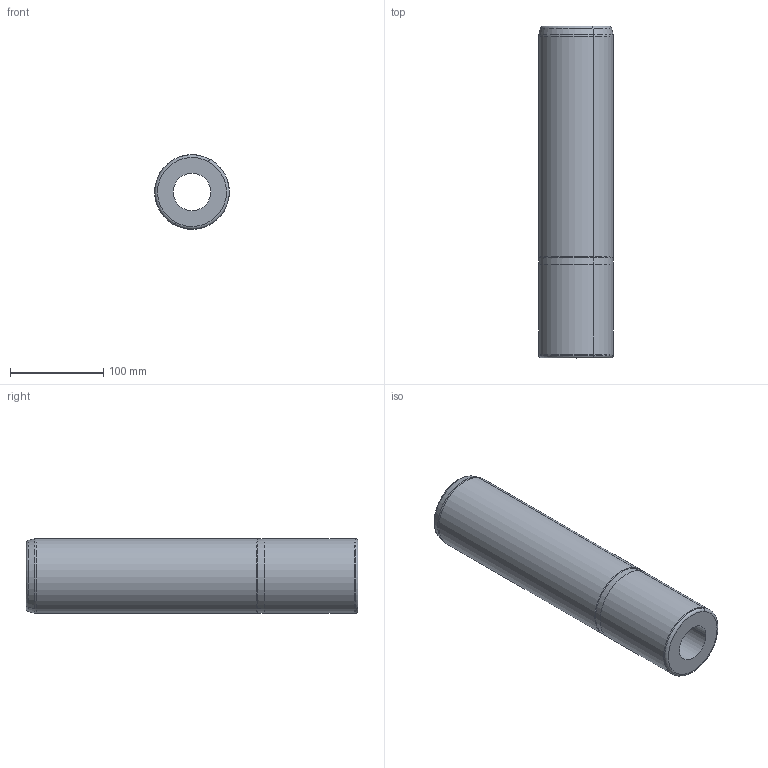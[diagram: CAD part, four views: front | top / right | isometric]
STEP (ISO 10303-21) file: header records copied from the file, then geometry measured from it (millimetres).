
FILE_DESCRIPTION(('CATIA V5 STEP Exchange','CAx-IF Rec.Pracs.--- Model Styling and Organization---1.4--- 2014-01-23','CAx-IF Rec.Pracs.---3D Tessellated Data Validation Properties---0.5---2014-09-14'),'2;1');
FILE_NAME('\\GSBFILE\data\URETIM\3D DATALAR\2016\KALIP ELEMANLARI\G KODLARI\G202-03\G202-03-080-355.stp','2019-08-06T12:11:47+00:00',('none'),('none'),'CATIA Version 5-6 Release 2016 SP6 HF8','CATIA V5 STEP AP242','none');
FILE_SCHEMA(('AP242_MANAGED_MODEL_BASED_3D_ENGINEERING_MIM_LF {1 0 10303 442 1 1 4}'));
Length unit declared in the file: millimetre
Products named in the file (1): G202-03-080-355
Bounding box: 80.04 x 355 x 80.04 mm (x, y, z)
Volume: 1329084.2 mm3; surface area: 142078.8 mm2
Topology: 1 solids, 1 shells, 31 faces, 66 edges, 36 vertices
Faces by surface type: cone 10, cylinder 10, torus 8, plane 3
Entity records: 733 total; most frequent: ORIENTED_EDGE 124, CARTESIAN_POINT 118, DIRECTION 100, AXIS2_PLACEMENT_3D 62, EDGE_CURVE 62, CIRCLE 42, EDGE_LOOP 36, VERTEX_POINT 36
